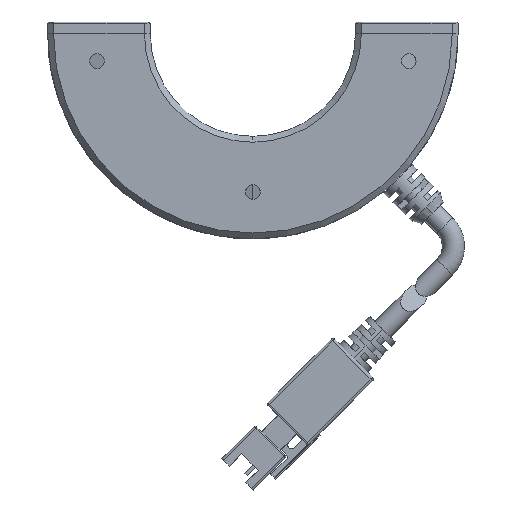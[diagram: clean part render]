
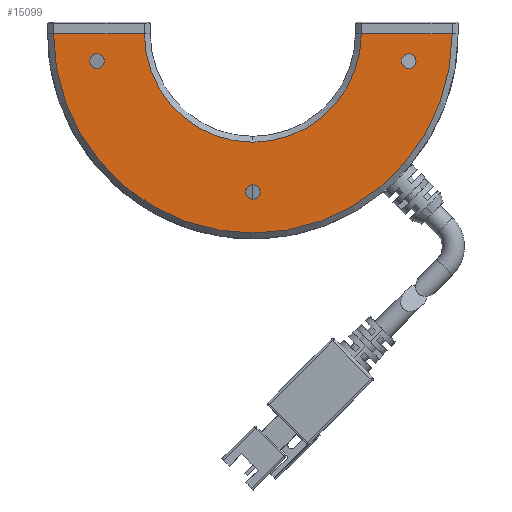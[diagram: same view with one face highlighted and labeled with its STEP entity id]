
A CAD part, front view. The second image highlights one B-rep face of the part: STEP entity #15099.
In plain terms, the highlighted planar face has unit normal (0, -1, 0).
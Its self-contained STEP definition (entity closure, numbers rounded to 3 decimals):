
#362 = CARTESIAN_POINT ( 'NONE',  ( -35., 0., 0. ) ) ;
#405 = PLANE ( 'NONE',  #7382 ) ;
#705 = DIRECTION ( 'NONE',  ( 0., 1., 0. ) ) ;
#923 = EDGE_LOOP ( 'NONE', ( #10929, #9009 ) ) ;
#1218 = FACE_BOUND ( 'NONE', #923, .T. ) ;
#1813 = CARTESIAN_POINT ( 'NONE',  ( -18.5, 0., 0. ) ) ;
#1935 = CARTESIAN_POINT ( 'NONE',  ( 0., 0., -27. ) ) ;
#2013 = EDGE_CURVE ( 'NONE', #4264, #6240, #4300, .T. ) ;
#2178 = CARTESIAN_POINT ( 'NONE',  ( 45., 0., 0. ) ) ;
#2494 = CARTESIAN_POINT ( 'NONE',  ( -26.59, 0., -5.939 ) ) ;
#2851 = CARTESIAN_POINT ( 'NONE',  ( 0., 0., 0. ) ) ;
#2900 = EDGE_CURVE ( 'NONE', #13940, #6240, #14299, .T. ) ;
#3114 = DIRECTION ( 'NONE',  ( 0., 0., -1. ) ) ;
#3245 = LINE ( 'NONE', #8375, #14907 ) ;
#3247 = ORIENTED_EDGE ( 'NONE', *, *, #8918, .F. ) ;
#3537 = ORIENTED_EDGE ( 'NONE', *, *, #9982, .T. ) ;
#3636 = AXIS2_PLACEMENT_3D ( 'NONE', #2851, #10986, #4039 ) ;
#3801 = DIRECTION ( 'NONE',  ( 1., 0., 0. ) ) ;
#3822 = CARTESIAN_POINT ( 'NONE',  ( 26.59, 0., -5.939 ) ) ;
#3908 = VERTEX_POINT ( 'NONE', #4195 ) ;
#3957 = CIRCLE ( 'NONE', #14584, 1.25 ) ;
#4039 = DIRECTION ( 'NONE',  ( 0., 0., 1. ) ) ;
#4195 = CARTESIAN_POINT ( 'NONE',  ( -26.59, 0., -3.439 ) ) ;
#4264 = VERTEX_POINT ( 'NONE', #9462 ) ;
#4300 = LINE ( 'NONE', #2178, #4657 ) ;
#4321 = FACE_BOUND ( 'NONE', #13648, .T. ) ;
#4404 = EDGE_CURVE ( 'NONE', #4264, #9969, #13764, .T. ) ;
#4657 = VECTOR ( 'NONE', #10323, 1000. ) ;
#4791 = VERTEX_POINT ( 'NONE', #2494 ) ;
#4810 = ORIENTED_EDGE ( 'NONE', *, *, #4404, .T. ) ;
#4968 = EDGE_CURVE ( 'NONE', #4791, #3908, #12280, .T. ) ;
#5050 = CIRCLE ( 'NONE', #14197, 1.25 ) ;
#5400 = FACE_BOUND ( 'NONE', #8522, .T. ) ;
#5650 = EDGE_CURVE ( 'NONE', #14996, #8004, #9312, .T. ) ;
#5704 = CARTESIAN_POINT ( 'NONE',  ( 26.59, 0., -4.689 ) ) ;
#5982 = DIRECTION ( 'NONE',  ( 0., 1., 0. ) ) ;
#6240 = VERTEX_POINT ( 'NONE', #1813 ) ;
#6437 = DIRECTION ( 'NONE',  ( 0., -1., 0. ) ) ;
#6545 = ORIENTED_EDGE ( 'NONE', *, *, #8569, .F. ) ;
#6631 = CARTESIAN_POINT ( 'NONE',  ( 18.5, 0., 0. ) ) ;
#6664 = DIRECTION ( 'NONE',  ( 0., -1., 0. ) ) ;
#6670 = DIRECTION ( 'NONE',  ( 0., -1., 0. ) ) ;
#6774 = VERTEX_POINT ( 'NONE', #3822 ) ;
#6883 = DIRECTION ( 'NONE',  ( 0., 0., -1. ) ) ;
#6906 = DIRECTION ( 'NONE',  ( 0., -1., 0. ) ) ;
#7128 = EDGE_CURVE ( 'NONE', #6774, #9641, #12778, .T. ) ;
#7382 = AXIS2_PLACEMENT_3D ( 'NONE', #362, #14311, #8509 ) ;
#7386 = FACE_OUTER_BOUND ( 'NONE', #11063, .T. ) ;
#7530 = AXIS2_PLACEMENT_3D ( 'NONE', #12984, #5982, #14155 ) ;
#7641 = CARTESIAN_POINT ( 'NONE',  ( 0., 0., 0. ) ) ;
#7667 = ORIENTED_EDGE ( 'NONE', *, *, #4968, .F. ) ;
#7853 = ORIENTED_EDGE ( 'NONE', *, *, #10035, .F. ) ;
#8004 = VERTEX_POINT ( 'NONE', #8193 ) ;
#8093 = AXIS2_PLACEMENT_3D ( 'NONE', #5704, #13873, #6883 ) ;
#8128 = CARTESIAN_POINT ( 'NONE',  ( 26.59, 0., -3.439 ) ) ;
#8193 = CARTESIAN_POINT ( 'NONE',  ( 0., 0., -25.75 ) ) ;
#8375 = CARTESIAN_POINT ( 'NONE',  ( 45., 0., 0. ) ) ;
#8393 = ORIENTED_EDGE ( 'NONE', *, *, #2013, .F. ) ;
#8509 = DIRECTION ( 'NONE',  ( 0., 0., 1. ) ) ;
#8522 = EDGE_LOOP ( 'NONE', ( #14215, #7853 ) ) ;
#8569 = EDGE_CURVE ( 'NONE', #12991, #9969, #3245, .T. ) ;
#8749 = CARTESIAN_POINT ( 'NONE',  ( 34., 0., 0. ) ) ;
#8810 = DIRECTION ( 'NONE',  ( 0., 0., 1. ) ) ;
#8918 = EDGE_CURVE ( 'NONE', #3908, #4791, #5050, .T. ) ;
#9009 = ORIENTED_EDGE ( 'NONE', *, *, #13104, .F. ) ;
#9312 = CIRCLE ( 'NONE', #13411, 1.25 ) ;
#9462 = CARTESIAN_POINT ( 'NONE',  ( -34., 0., 0. ) ) ;
#9641 = VERTEX_POINT ( 'NONE', #8128 ) ;
#9969 = VERTEX_POINT ( 'NONE', #8749 ) ;
#9982 = EDGE_CURVE ( 'NONE', #12991, #13940, #10492, .T. ) ;
#10035 = EDGE_CURVE ( 'NONE', #8004, #14996, #3957, .T. ) ;
#10084 = DIRECTION ( 'NONE',  ( 0., -1., 0. ) ) ;
#10323 = DIRECTION ( 'NONE',  ( 1., 0., 0. ) ) ;
#10492 = CIRCLE ( 'NONE', #11447, 18.5 ) ;
#10507 = AXIS2_PLACEMENT_3D ( 'NONE', #13899, #6906, #15076 ) ;
#10841 = AXIS2_PLACEMENT_3D ( 'NONE', #13448, #6437, #14596 ) ;
#10929 = ORIENTED_EDGE ( 'NONE', *, *, #7128, .F. ) ;
#10986 = DIRECTION ( 'NONE',  ( 0., -1., 0. ) ) ;
#11063 = EDGE_LOOP ( 'NONE', ( #6545, #3537, #13832, #8393, #4810 ) ) ;
#11447 = AXIS2_PLACEMENT_3D ( 'NONE', #7641, #705, #8810 ) ;
#12280 = CIRCLE ( 'NONE', #10841, 1.25 ) ;
#12618 = CIRCLE ( 'NONE', #10507, 1.25 ) ;
#12778 = CIRCLE ( 'NONE', #8093, 1.25 ) ;
#12984 = CARTESIAN_POINT ( 'NONE',  ( 0., 0., 0. ) ) ;
#12991 = VERTEX_POINT ( 'NONE', #6631 ) ;
#13104 = EDGE_CURVE ( 'NONE', #9641, #6774, #12618, .T. ) ;
#13411 = AXIS2_PLACEMENT_3D ( 'NONE', #1935, #10084, #3114 ) ;
#13448 = CARTESIAN_POINT ( 'NONE',  ( -26.59, 0., -4.689 ) ) ;
#13472 = CARTESIAN_POINT ( 'NONE',  ( 0., 0., -18.5 ) ) ;
#13648 = EDGE_LOOP ( 'NONE', ( #7667, #3247 ) ) ;
#13650 = CARTESIAN_POINT ( 'NONE',  ( 0., 0., -27. ) ) ;
#13653 = CARTESIAN_POINT ( 'NONE',  ( -26.59, 0., -4.689 ) ) ;
#13764 = CIRCLE ( 'NONE', #3636, 34. ) ;
#13832 = ORIENTED_EDGE ( 'NONE', *, *, #2900, .T. ) ;
#13873 = DIRECTION ( 'NONE',  ( 0., -1., 0. ) ) ;
#13898 = CARTESIAN_POINT ( 'NONE',  ( 0., 0., -28.25 ) ) ;
#13899 = CARTESIAN_POINT ( 'NONE',  ( 26.59, 0., -4.689 ) ) ;
#13940 = VERTEX_POINT ( 'NONE', #13472 ) ;
#14155 = DIRECTION ( 'NONE',  ( 0., 0., 1. ) ) ;
#14197 = AXIS2_PLACEMENT_3D ( 'NONE', #13653, #6670, #14808 ) ;
#14215 = ORIENTED_EDGE ( 'NONE', *, *, #5650, .F. ) ;
#14299 = CIRCLE ( 'NONE', #7530, 18.5 ) ;
#14311 = DIRECTION ( 'NONE',  ( 0., 1., 0. ) ) ;
#14584 = AXIS2_PLACEMENT_3D ( 'NONE', #13650, #6664, #14804 ) ;
#14596 = DIRECTION ( 'NONE',  ( 0., 0., -1. ) ) ;
#14804 = DIRECTION ( 'NONE',  ( 0., 0., -1. ) ) ;
#14808 = DIRECTION ( 'NONE',  ( 0., 0., -1. ) ) ;
#14907 = VECTOR ( 'NONE', #3801, 1000. ) ;
#14996 = VERTEX_POINT ( 'NONE', #13898 ) ;
#15076 = DIRECTION ( 'NONE',  ( 0., 0., -1. ) ) ;
#15099 = ADVANCED_FACE ( 'NONE', ( #4321, #5400, #1218, #7386 ), #405, .F. ) ;
